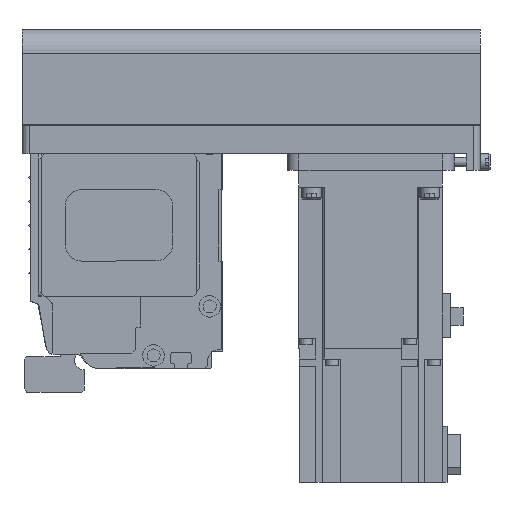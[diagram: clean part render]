
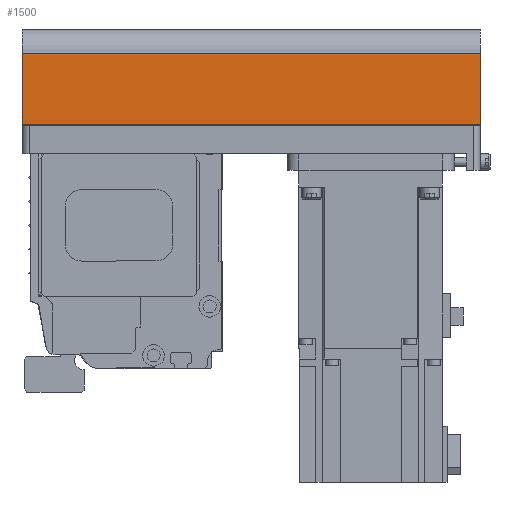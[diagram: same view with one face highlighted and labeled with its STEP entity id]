
A CAD part, left-side view. The second image highlights one B-rep face of the part: STEP entity #1500.
In plain terms, the highlighted planar face has unit normal (-1, 0, 0) as drawn and (0, -1, 0) by its records, which use the part's own axes.
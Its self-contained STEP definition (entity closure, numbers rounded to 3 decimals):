
#1500 = ADVANCED_FACE( '', ( #3427 ), #3428, .T. );
#3427 = FACE_OUTER_BOUND( '', #5915, .T. );
#3428 = PLANE( '', #5916 );
#5915 = EDGE_LOOP( '', ( #9965, #9966, #9967, #9968 ) );
#5916 = AXIS2_PLACEMENT_3D( '', #9969, #9970, #9971 );
#9965 = ORIENTED_EDGE( '', *, *, #14767, .F. );
#9966 = ORIENTED_EDGE( '', *, *, #15026, .F. );
#9967 = ORIENTED_EDGE( '', *, *, #15345, .T. );
#9968 = ORIENTED_EDGE( '', *, *, #15346, .T. );
#9969 = CARTESIAN_POINT( '', ( -192., -40., -12.1 ) );
#9970 = DIRECTION( '', ( 0., -1., 0. ) );
#9971 = DIRECTION( '', ( 0., 0., -1. ) );
#14767 = EDGE_CURVE( '', #16801, #17864, #17865, .T. );
#15026 = EDGE_CURVE( '', #18077, #16801, #18263, .T. );
#15345 = EDGE_CURVE( '', #18077, #18756, #18757, .T. );
#15346 = EDGE_CURVE( '', #18756, #17864, #18758, .T. );
#16801 = VERTEX_POINT( '', #20640 );
#17864 = VERTEX_POINT( '', #22069 );
#17865 = LINE( '', #22070, #22071 );
#18077 = VERTEX_POINT( '', #22363 );
#18263 = LINE( '', #22608, #22609 );
#18756 = VERTEX_POINT( '', #23268 );
#18757 = LINE( '', #23269, #23270 );
#18758 = LINE( '', #23271, #23272 );
#20640 = CARTESIAN_POINT( '', ( 0., -40., -12.1 ) );
#22069 = CARTESIAN_POINT( '', ( 0., -40., -42. ) );
#22070 = CARTESIAN_POINT( '', ( 0., -40., -12.1 ) );
#22071 = VECTOR( '', #26181, 1000. );
#22363 = CARTESIAN_POINT( '', ( -192., -40., -12.1 ) );
#22608 = CARTESIAN_POINT( '', ( -192., -40., -12.1 ) );
#22609 = VECTOR( '', #26483, 1000. );
#23268 = CARTESIAN_POINT( '', ( -192., -40., -42. ) );
#23269 = CARTESIAN_POINT( '', ( -192., -40., -12.1 ) );
#23270 = VECTOR( '', #26887, 1000. );
#23271 = CARTESIAN_POINT( '', ( -192., -40., -42. ) );
#23272 = VECTOR( '', #26888, 1000. );
#26181 = DIRECTION( '', ( 0., 0., -1. ) );
#26483 = DIRECTION( '', ( 1., 0., 0. ) );
#26887 = DIRECTION( '', ( 0., 0., -1. ) );
#26888 = DIRECTION( '', ( 1., 0., 0. ) );
